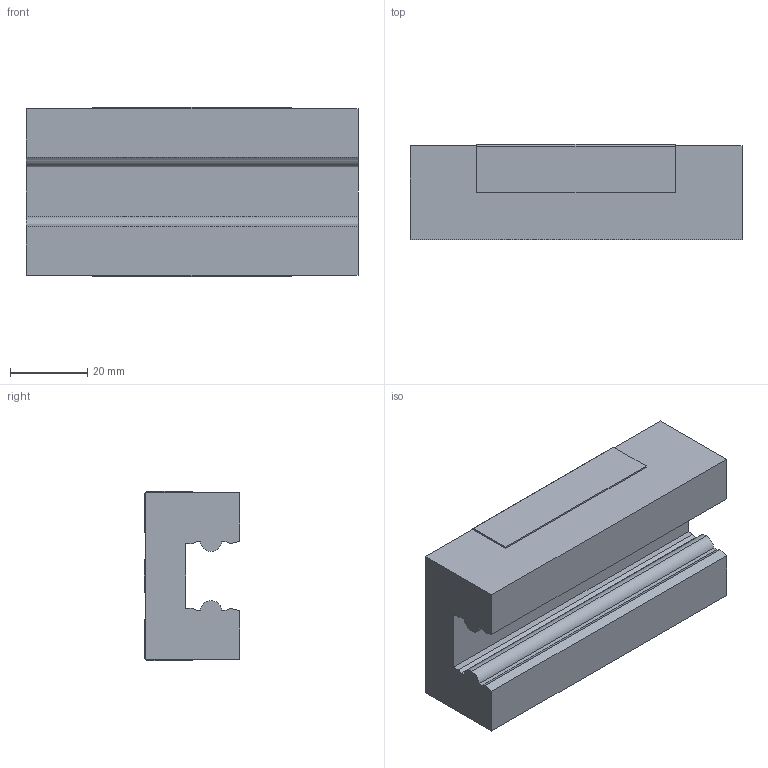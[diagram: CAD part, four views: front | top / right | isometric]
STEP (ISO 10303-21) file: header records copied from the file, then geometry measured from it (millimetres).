
FILE_DESCRIPTION (( 'STEP AP214' ), '1' );
FILE_NAME ('GNS-2000.step', '2021-10-15T05:20:56', ( '' ), ( '' ), 'SwSTEP 2.0', 'SolidWorks 2010', '' );
FILE_SCHEMA (( 'AUTOMOTIVE_DESIGN' ));
Length unit declared in the file: millimetre
Products named in the file (1): GNS-2000
Bounding box: 86 x 24.7 x 44 mm (x, y, z)
Volume: 71122.8 mm3; surface area: 16808.2 mm2
Topology: 1 solids, 1 shells, 75 faces, 195 edges, 118 vertices
Faces by surface type: plane 48, cone 16, cylinder 11
Entity records: 2291 total; most frequent: CARTESIAN_POINT 381, ORIENTED_EDGE 374, DIRECTION 369, EDGE_CURVE 187, VECTOR 157, LINE 157, VERTEX_POINT 118, AXIS2_PLACEMENT_3D 106
